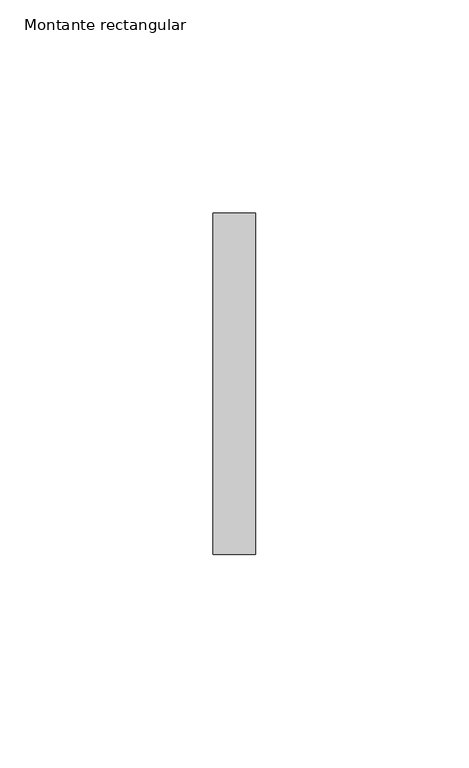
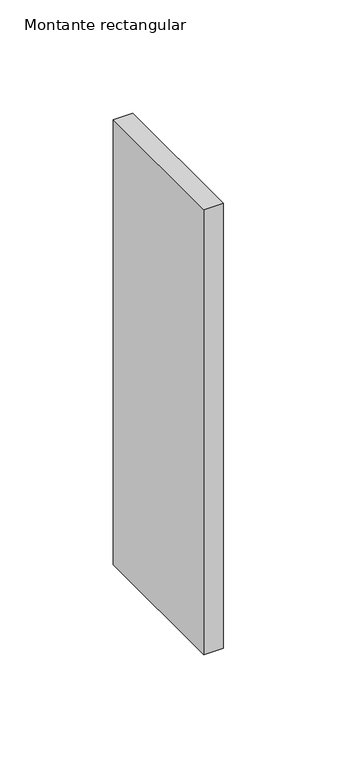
"""IFC4 building model written with IfcOpenShell, lengths in millimetres: member geometry, Montante rectangular : Junta de paves."""

from ifc_helpers import new_model, si_unit, frame, origin, place, context, project, spatial, polyline, outline, extrude, source, transform, mapped, element, save


def montante_rectangular_ca48c89f(model_context):
    return source(origin(), model_context, "Body", "SweptSolid", [
        extrude(outline(polyline([(0.0, 40.0), (0.0, -40.0), (-10.0, -40.0), (-10.0, 40.0), (0.0, 40.0)])), frame((0.0, 0.0, -240.0), z_axis=(0.0, 0.0, 1.0), x_axis=(1.0, 0.0, 0.0)), (0.0, 0.0, 1.0), 240.0),
    ])


if __name__ == "__main__":
    model = new_model("IFC4")
    model_context = context("Model", 3, world=origin())
    ifc_project = project(units=[si_unit("LENGTHUNIT", "METRE", prefix="MILLI")], contexts=[model_context])
    site = spatial("IfcSite", under=ifc_project)
    building = spatial("IfcBuilding", under=site)
    placement = place(None, origin())
    montante_rectangular_shape = montante_rectangular_ca48c89f(model_context)
    element("IfcMember", 1, ObjectType="Montante rectangular : Junta de paves", at=placement, inside=building, context=model_context, shape_type="MappedRepresentation", body=[
        mapped(montante_rectangular_shape, transform((0.0, 0.0, 0.0), x_axis=(1.0, 0.0, 0.0), y_axis=(0.0, 1.0, 0.0), z_axis=(0.0, 0.0, 1.0))),
    ])
    save(model, "model.ifc")
